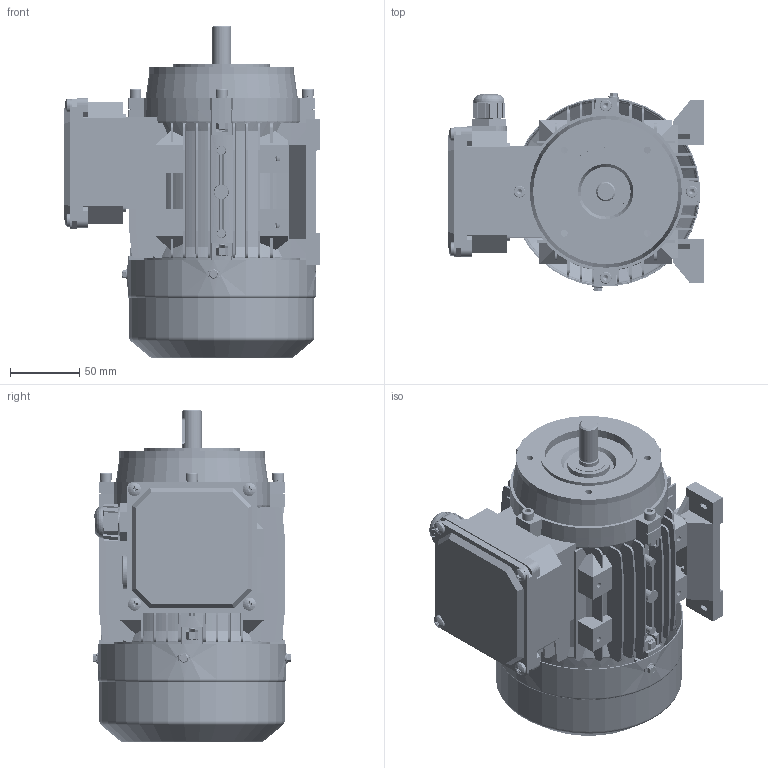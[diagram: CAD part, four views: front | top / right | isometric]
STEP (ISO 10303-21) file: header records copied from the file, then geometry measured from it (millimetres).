
FILE_DESCRIPTION (( 'STEP AP203' ), '1' );
FILE_NAME ('MS71M B34 3D蚾饜芞.STEP', '2024-08-06T06:10:57', ( 'User' ), ( 'China' ), 'SwSTEP 2.0', 'SolidWorks 2018', '' );
FILE_SCHEMA (( 'CONFIG_CONTROL_DESIGN' ));
Length unit declared in the file: millimetre
Products named in the file (23): MS71M B34 3D蚾饜芞; 蚐猾25X14X4; hex washer head screw_as_AS-NZS 1427 HW - M4 x 6-N; 黑芛20X1.5; pan cross head screw_as_AS-NZS 1427 PC- M4 x 8-S; spring lock washers--normal type gb_GB_FASTENER_WASHER_SW 6; pan cross head screw_as_AS-NZS 1427 PC- M5 x 8-S; 8.034.07101MS71 S儂褲; hexagon socket head cap screws gb_GB_FASTENER_SCREWS_HSHCS M6X20-S; 蹟杶郋M20X1.5; 8.013.07102MS71綴傷裔; MS63-71諉盄碟菁釱; 蹟簸M20X1.5; 8.200.07101MS71 S蛌粣; MS63-71諉盄碟裔; hexagon socket head cap screws gb_GB_FASTENER_SCREWS_HSHCS M5X25-S; hexagon socket head cap screw_as_AS 1420 - M5 x 25-S; 8.043.07101MS71菁褐; spring lock washers--normal type gb_GB_FASTENER_WASHER_SW 5; hexagon nut (grades c) as_AS 1112.3 C- M5-S; 8.013.07104MS71B14傷裔; hex nuts, style 1-grades ab gb_GB_FASTENER_NUT_SNAB1 M5-N; 8.306.07101MS71邧脯瑞欶
Assembly tree (51 placements, depth 2):
  MS71M B34 3D蚾饜芞
    8.034.07101MS71 S儂褲
    8.013.07102MS71綴傷裔
    8.200.07101MS71 S蛌粣
    hexagon socket head cap screw_as_AS 1420 - M5 x 25-S  x4
    hexagon nut (grades c) as_AS 1112.3 C- M5-S  x4
    8.306.07101MS71邧脯瑞欶
    hex washer head screw_as_AS-NZS 1427 HW - M4 x 6-N  x3
    pan cross head screw_as_AS-NZS 1427 PC- M4 x 8-S  x4
    pan cross head screw_as_AS-NZS 1427 PC- M5 x 8-S  x4
    蹟杶郋M20X1.5
    蹟簸M20X1.5
    hexagon socket head cap screws gb_GB_FASTENER_SCREWS_HSHCS M5X25-S  x4
    spring lock washers--normal type gb_GB_FASTENER_WASHER_SW 5  x4
    hex nuts, style 1-grades ab gb_GB_FASTENER_NUT_SNAB1 M5-N  x3
    蚐猾25X14X4
    黑芛20X1.5
    spring lock washers--normal type gb_GB_FASTENER_WASHER_SW 6  x4
    hexagon socket head cap screws gb_GB_FASTENER_SCREWS_HSHCS M6X20-S  x4
    MS63-71諉盄碟菁釱
    MS63-71諉盄碟裔
    8.043.07101MS71菁褐  x2
    8.013.07104MS71B14傷裔
Bounding box: 185 x 143.8 x 240.1 mm (x, y, z)
Volume: 657730.8 mm3; surface area: 475374 mm2
Topology: 51 solids, 60 shells, 6973 faces, 16561 edges, 9777 vertices
Faces by surface type: cone 2479, plane 2367, cylinder 1852, bspline 146, torus 113, sphere 16
Entity records: 140312 total; most frequent: CARTESIAN_POINT 44244, ORIENTED_EDGE 20114, DIRECTION 18268, EDGE_CURVE 10057, VERTEX_POINT 6358, AXIS2_PLACEMENT_3D 6201, LINE 5866, VECTOR 5866
